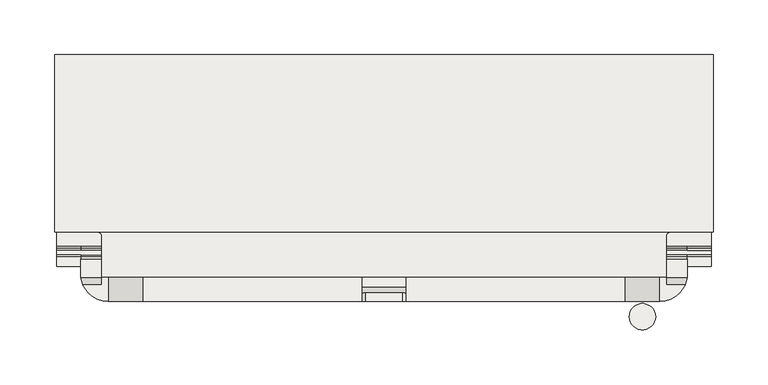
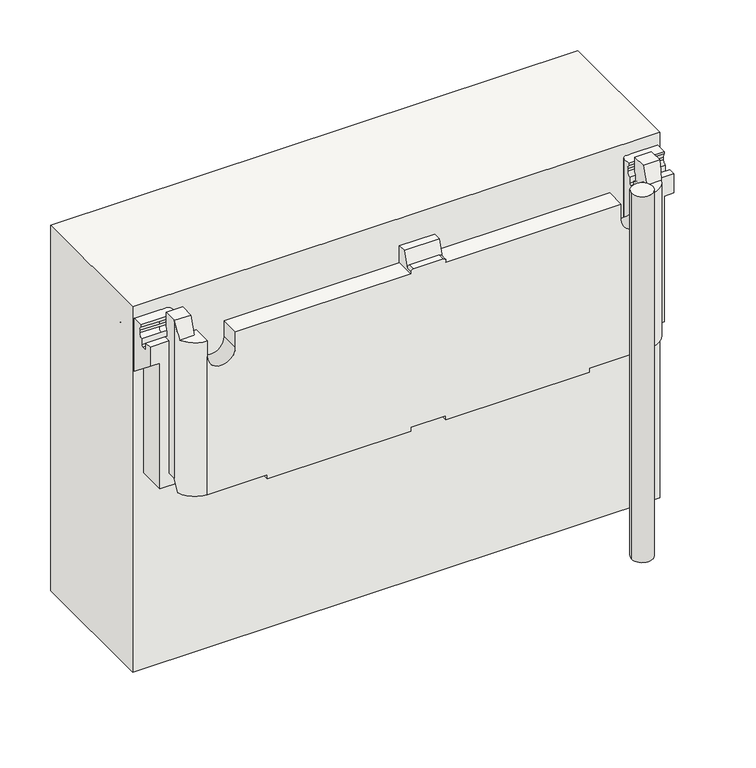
"""IFC4 building model written with IfcOpenShell, lengths in millimetres: covering geometry, panel VP Modulo prova ultima texture : panel VP Modulo prova ultima texture."""

from ifc_helpers import new_model, si_unit, point, frame, frame_2d, origin, origin_with_axes, place, context, project, spatial, polyline, circle_curve, ellipse_curve, trimmed, segment, composite_curve, outline, extrude, source, transform, mapped, element, save
from ifc_brep_helpers import plane_surface, cylinder_surface, revolved_surface, advanced_brep


def covering_ffdf41f5(model_context):
    return source(origin(), model_context, "Body", "SolidModel", [
        advanced_brep(
        [(-20.0, 40.503817, 440.3791993), (-20.0, 49.5015434, 440.3791993), (-20.0, 49.5015434, 420.3821425), (-20.0, 27.5015432, 420.3821425), (-20.0, 27.5015432, 422.3821424), (-20.0, 34.5021229, 422.3821424), (20.0, 49.5015434, 440.3791993), (20.0, 40.503817, 440.3791993), (20.0, 34.5021229, 422.3821424), (20.0, 27.5015432, 422.3821424), (20.0, 27.5015432, 420.3821425), (20.0, 49.5015434, 420.3821425), (-17.0, 35.5025688, 425.3821424), (17.0, 35.5025688, 425.3821424), (17.0, 27.5015432, 425.3821424), (-17.0, 27.5015432, 425.3821424), (-276.2404059, 49.5015434, 440.3770182), (-276.2404059, 65.772467, 440.3770182), (-276.2404059, 65.772467, 422.4339741), (-276.2404059, 63.7739273, 417.538463), (-276.2404059, 63.7739273, 414.538463), (-276.2404059, 67.7745502, 409.8422632), (-276.2404059, 59.5, 409.8422632), (-276.2404059, 59.5, 250.3778557), (-276.2404059, 49.5015434, 250.3778557), (276.2404059, 67.7745502, 409.8422632), (276.2404059, 63.7739273, 414.538463), (276.2404059, 63.7739273, 417.538463), (276.2404059, 65.772467, 422.4339741), (276.2404059, 65.772467, 440.3770182), (276.2404059, 49.5015434, 440.3770182), (276.2404059, 49.5015434, 250.3778557), (276.2404059, 59.5, 250.3778557), (276.2404059, 59.5, 409.8422632), (219.5404059, 27.5015432, 420.3821425), (219.5404059, 49.5015434, 420.3821425), (257.5404059, 42.6167555, 420.3821425), (257.5404059, 49.5015434, 420.3821425), (251.5404059, 49.5015434, 420.3821425), (251.5404059, 27.5015432, 420.3821425), (274.4146377, 42.6167555, 420.3821425), (-251.5404059, 27.5015432, 420.3821425), (-251.5404059, 49.5015434, 420.3821425), (-257.5404059, 49.5015434, 420.3821425), (-257.5404059, 42.6167555, 420.3821425), (-274.4146377, 42.6167555, 420.3821425), (-219.5404059, 49.5015434, 420.3821425), (-219.5404059, 27.5015432, 420.3821425), (-276.2404059, 109.8415131, 257.378532), (276.2404059, 109.8415131, 257.378532), (276.2404059, 141.2113001, 285.0190246), (-276.2404059, 141.2113001, 285.0190246), (-276.2404059, 147.3447094, 291.4812522), (276.2404059, 147.3447094, 291.4812522), (276.2404059, 184.4941844, 338.3639074), (-276.2404059, 184.4941844, 338.3639074), (276.2404059, 184.4941844, 365.3627622), (-276.2404059, 184.4941844, 365.3627622), (298.2404059, 184.4914281, 365.3627622), (298.2404059, 202.488872, 365.3627622), (-298.2404059, 202.488872, 365.3627622), (-298.2404059, 184.4914281, 365.3627622), (-298.2404059, 202.488872, 325.6494871), (298.2404059, 202.488872, 325.6494871), (276.2404059, 193.4423608, 284.2709563), (-276.2404059, 193.4423608, 284.2709563), (-298.2404059, 193.4423608, 284.2709563), (298.2404059, 193.4423608, 284.2709563), (276.2404059, 190.281945, 283.1432662), (-276.2404059, 190.281945, 283.1432662), (298.2404059, 190.281945, 283.1432662), (298.2404059, 59.5, 386.7739206), (287.2404059, 59.5, 386.7739206), (287.2404059, 180.2456216, 291.0959753), (276.2404059, 180.2456216, 291.0959753), (-276.2404059, 180.2456216, 291.0959753), (-287.2404059, 180.2456216, 291.0959753), (-287.2404059, 59.5, 386.7739206), (-298.2404059, 59.5, 386.7739206), (-298.2404059, 190.281945, 283.1432662), (276.2404059, 174.5899002, 290.4408933), (-276.2404059, 174.5899002, 290.4408933), (287.2404059, 174.5899002, 290.4408933), (287.2404059, 160.5878776, 272.7703691), (-287.2404059, 160.5878776, 272.7703691), (-287.2404059, 174.5899002, 290.4408933), (-287.2404059, 118.1414154, 235.3700156), (287.2404059, 118.1414154, 235.3700156), (251.5404059, 118.1414154, 235.3700156), (211.5404059, 118.1414154, 235.3700156), (20.0, 118.1414154, 235.3700156), (-20.0, 118.1414154, 235.3700156), (-211.5404059, 118.1414154, 235.3700156), (-251.5404059, 118.1414154, 235.3700156), (-287.2404059, 59.5, 235.3821441), (-251.5404059, 78.1414154, 235.3821441), (-211.5404059, 78.1414154, 235.3821441), (-20.0, 78.1414154, 235.3821441), (20.0, 78.1414154, 235.3821441), (211.5404059, 78.1414154, 235.3821441), (251.5404059, 78.1414154, 235.3821441), (287.2404059, 59.5, 235.3821441), (266.2404059, 59.5, 235.3821441), (266.2404059, 44.6291413, 235.3821441), (275.1714066, 44.6291413, 235.3821441), (251.5404059, 27.5015432, 235.3821441), (183.2404059, 27.5015432, 235.3821441), (183.2404059, 67.5015432, 235.3821441), (20.0, 67.5015432, 235.3821441), (20.0, 27.5015432, 235.3821441), (-20.0, 27.5015432, 235.3821441), (-20.0, 67.5015432, 235.3821441), (-183.2404059, 67.5015432, 235.3821441), (-183.2404059, 27.5015432, 235.3821441), (-251.5404059, 27.5015432, 235.3821441), (-275.1714066, 44.6291413, 235.3821441), (-266.2404059, 44.6291413, 235.3821441), (-266.2404059, 59.5, 235.3821441), (-219.5404059, 27.5015432, 401.3586119), (-251.5404059, 27.5015432, 401.3586119), (-183.2404059, 27.5015432, 230.3725587), (-20.0, 27.5015432, 230.3725587), (20.0, 27.5015432, 230.3725587), (183.2404059, 27.5015432, 230.3725587), (251.5404059, 27.5015432, 401.3586119), (219.5404059, 27.5015432, 401.3586119), (-251.5404059, 49.5015434, 401.3586119), (-219.5404059, 49.5015434, 401.3586119), (219.5404059, 49.5015434, 401.3586119), (251.5404059, 49.5015434, 401.3586119), (257.5404059, 49.5015434, 257.378532), (-257.5404059, 49.5015434, 257.378532), (-276.2404059, 101.3665857, 257.378532), (-265.6338042, 90.7599839, 257.378532), (-261.9338042, 90.7599839, 257.378532), (-257.5404059, 86.3665857, 257.378532), (257.5404059, 86.3665857, 257.378532), (261.9338042, 90.7599839, 257.378532), (265.6338042, 90.7599839, 257.378532), (276.2404059, 101.3665857, 257.378532), (-298.2404059, 59.5, 409.8422632), (-298.2404059, 67.7745502, 409.8422632), (-298.2404059, 67.7745502, 402.8424284), (-298.2404059, 69.7745502, 400.8424284), (-298.2404059, 74.0001297, 400.8424284), (-298.2404059, 76.0001297, 402.8424284), (-298.2404059, 76.0001297, 409.8422632), (-298.2404059, 80.0007527, 414.538463), (-298.2404059, 80.0007527, 417.538463), (-298.2404059, 78.002213, 422.4339741), (-298.2404059, 78.002213, 425.3856889), (-298.2404059, 115.166168, 425.3856889), (-298.2404059, 118.166168, 422.3856889), (-298.2404059, 118.166168, 406.1051366), (-298.2404059, 119.6447617, 403.5195374), (-276.2404059, 119.6447617, 403.5195374), (-276.2404059, 118.166168, 406.1051366), (-276.2404059, 118.166168, 422.3856889), (-276.2404059, 115.166168, 425.3856889), (-276.2404059, 101.3665857, 425.3856889), (-266.2404059, 59.5, 250.3778557), (-257.5404059, 67.7745502, 409.8422632), (-257.5404059, 67.7745502, 402.8424284), (-276.2404059, 67.7745502, 402.8424284), (-276.2404059, 69.7745502, 400.8424284), (-257.5404059, 69.7745502, 400.8424284), (-257.5404059, 74.0001297, 400.8424284), (-276.2404059, 74.0001297, 400.8424284), (-276.2404059, 76.0001297, 402.8424284), (-257.5404059, 76.0001297, 402.8424284), (-257.5404059, 76.0001297, 409.8422632), (-276.2404059, 76.0001297, 409.8422632), (-276.2404059, 80.0007527, 414.538463), (-257.5404059, 80.0007527, 414.538463), (-257.5404059, 80.0007527, 417.538463), (-276.2404059, 80.0007527, 417.538463), (-276.2404059, 78.002213, 422.4339741), (-257.5404059, 78.002213, 422.4339741), (-257.5404059, 78.002213, 425.3856889), (-257.5404059, 86.3665857, 425.3856889), (-261.9338042, 90.7599839, 425.3856889), (-265.6338042, 90.7599839, 425.3856889), (-257.5404059, 63.7739273, 414.538463), (-257.5404059, 63.7739273, 417.538463), (-257.5404059, 65.772467, 422.4339741), (-257.5404059, 65.772467, 440.3770182), (-257.5404059, 49.5015434, 440.3770182), (298.2404059, 119.6447617, 403.5195374), (298.2404059, 118.166168, 406.1051366), (298.2404059, 118.166168, 422.3856889), (298.2404059, 115.166168, 425.3856889), (298.2404059, 78.002213, 425.3856889), (298.2404059, 78.002213, 422.4339741), (298.2404059, 80.0007527, 417.538463), (298.2404059, 80.0007527, 414.538463), (298.2404059, 76.0001297, 409.8422632), (298.2404059, 76.0001297, 402.8424284), (298.2404059, 74.0001297, 400.8424284), (298.2404059, 69.7745502, 400.8424284), (298.2404059, 67.7745502, 402.8424284), (298.2404059, 67.7745502, 409.8422632), (298.2404059, 59.5, 409.8422632), (276.2404059, 115.166168, 425.3856889), (276.2404059, 118.166168, 422.3856889), (276.2404059, 118.166168, 406.1051366), (276.2404059, 119.6447617, 403.5195374), (276.2404059, 101.3665857, 425.3856889), (266.2404059, 59.5, 250.3778557), (276.2404059, 69.7745502, 400.8424284), (276.2404059, 67.7745502, 402.8424284), (276.2404059, 76.0001297, 402.8424284), (276.2404059, 74.0001297, 400.8424284), (276.2404059, 80.0007527, 414.538463), (276.2404059, 76.0001297, 409.8422632), (276.2404059, 78.002213, 422.4339741), (276.2404059, 80.0007527, 417.538463), (257.5404059, 49.5015434, 440.3770182), (257.5404059, 65.772467, 440.3770182), (257.5404059, 65.772467, 422.4339741), (257.5404059, 63.7739273, 417.538463), (257.5404059, 63.7739273, 414.538463), (257.5404059, 67.7745502, 409.8422632), (257.5404059, 67.7745502, 402.8424284), (257.5404059, 69.7745502, 400.8424284), (257.5404059, 74.0001297, 400.8424284), (257.5404059, 76.0001297, 402.8424284), (257.5404059, 76.0001297, 409.8422632), (257.5404059, 80.0007527, 414.538463), (257.5404059, 80.0007527, 417.538463), (257.5404059, 78.002213, 422.4339741), (257.5404059, 78.002213, 425.3856889), (257.5404059, 86.3665857, 425.3856889), (265.6338042, 90.7599839, 425.3856889), (261.9338042, 90.7599839, 425.3856889), (251.5404059, 78.1414154, 230.3725587), (211.5404059, 78.1414154, 230.3725587), (211.5404059, 118.1414154, 230.3725587), (251.5404059, 118.1414154, 230.3725587), (-20.0, 78.1414154, 230.3725587), (-20.0, 118.1414154, 230.3725587), (20.0, 118.1414154, 230.3725587), (20.0, 78.1414154, 230.3725587), (-251.5404059, 78.1414154, 230.3725587), (-251.5404059, 118.1414154, 230.3725587), (-211.5404059, 118.1414154, 230.3725587), (-211.5404059, 78.1414154, 230.3725587), (20.0, 67.5015432, 230.3725587), (183.2404059, 67.5015432, 230.3725587), (-20.0, 67.5015432, 230.3725587), (-183.2404059, 67.5015432, 230.3725587), (-266.2404059, 49.5015434, 250.3778557), (266.2404059, 49.5015434, 250.3778557)],
        [
            (0, 1),
            (1, 2),
            (2, 3),
            (3, 4),
            (4, 5),
            (5, 0),
            (6, 7),
            (7, 8),
            (8, 9),
            (9, 10),
            (10, 11),
            (11, 6),
            (0, 7),
            (6, 1),
            (5, 12, ellipse_curve(frame((-17.0, 34.5021229, 422.3821424), z_axis=(0.0, 0.9486409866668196, -0.31635467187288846), x_axis=(0.0, 0.31635467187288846, 0.9486409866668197)), 3.1624187, 3.0)),
            (12, 13),
            (13, 8, ellipse_curve(frame((17.0, 34.5021229, 422.3821424), z_axis=(0.0, 0.9486409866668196, -0.31635467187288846), x_axis=(0.0, 0.31635467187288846, 0.9486409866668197)), 3.1624187, 3.0)),
            (14, 9, circle_curve(frame((17.0, 27.5015432, 422.3821424), z_axis=(0.0, 1.0, 0.0), x_axis=(-1.0, 0.0, 0.0)), 3.0)),
            (13, 14),
            (4, 15, circle_curve(frame((-17.0, 27.5015432, 422.3821424), z_axis=(0.0, 1.0, 0.0), x_axis=(-1.0, 0.0, 0.0)), 3.0)),
            (15, 12),
            (15, 14),
            (16, 17),
            (17, 18),
            (18, 19, circle_curve(frame((-276.2404059, 70.7690822, 417.538463), z_axis=(1.0, 0.0, 0.0), x_axis=(0.0, -1.0, 0.0)), 6.9951549)),
            (19, 20),
            (20, 21, circle_curve(frame((-276.2404059, 68.5305961, 414.538463), z_axis=(1.0, 0.0, 0.0), x_axis=(0.0, -1.0, 0.0)), 4.7566689)),
            (21, 22),
            (22, 23),
            (23, 24),
            (24, 16),
            (25, 26, circle_curve(frame((276.2404059, 68.5305961, 414.538463), z_axis=(-1.0, 0.0, 0.0), x_axis=(0.0, -1.0, 0.0)), 4.7566689)),
            (26, 27),
            (27, 28, circle_curve(frame((276.2404059, 70.7690822, 417.538463), z_axis=(-1.0, 0.0, 0.0), x_axis=(0.0, -1.0, 0.0)), 6.9951549)),
            (28, 29),
            (29, 30),
            (30, 31),
            (31, 32),
            (32, 33),
            (33, 25),
            (10, 34),
            (34, 35),
            (35, 11),
            (36, 37),
            (37, 38),
            (38, 39),
            (39, 40, circle_curve(frame((251.5404059, 52.367225, 420.3821425), z_axis=(0.0, 0.0, 1.0), x_axis=(1.0, 0.0, 0.0)), 24.8656818)),
            (40, 36),
            (41, 42),
            (42, 43),
            (43, 44),
            (44, 45),
            (45, 41, circle_curve(frame((-251.5404059, 52.367225, 420.3821425), z_axis=(0.0, 0.0, 1.0), x_axis=(-1.0, 0.0, 0.0)), 24.8656818)),
            (46, 47),
            (47, 3),
            (2, 46),
            (48, 49),
            (49, 50),
            (50, 51),
            (51, 48),
            (52, 53),
            (53, 54),
            (54, 55),
            (55, 52),
            (54, 56),
            (56, 57),
            (57, 55),
            (56, 58),
            (58, 59),
            (59, 60),
            (60, 61),
            (61, 57),
            (62, 60),
            (59, 63),
            (63, 62),
            (64, 65),
            (65, 66),
            (66, 62),
            (63, 67),
            (67, 64),
            (64, 68, circle_curve(frame((276.2404059, 191.5102381, 284.6933727), z_axis=(-1.0, 0.0, 0.0), x_axis=(0.0, -1.0, 0.0)), 1.9777598)),
            (68, 69),
            (69, 65, circle_curve(frame((-276.2404059, 191.5102381, 284.6933727), z_axis=(1.0, 0.0, 0.0), x_axis=(0.0, -1.0, 0.0)), 1.9777598)),
            (68, 70),
            (70, 71),
            (71, 72),
            (72, 73),
            (73, 74),
            (74, 75),
            (75, 76),
            (76, 77),
            (77, 78),
            (78, 79),
            (79, 69),
            (74, 80, circle_curve(frame((276.2404059, 177.7453022, 287.9405708), z_axis=(1.0, 0.0, 0.0), x_axis=(0.0, -1.0, 0.0)), 4.0259377)),
            (80, 81),
            (81, 75, circle_curve(frame((-276.2404059, 177.7453022, 287.9405708), z_axis=(-1.0, 0.0, 0.0), x_axis=(0.0, -1.0, 0.0)), 4.0259377)),
            (80, 82),
            (82, 83),
            (83, 84),
            (84, 85),
            (85, 81),
            (86, 84),
            (83, 87),
            (87, 88),
            (88, 89),
            (89, 90),
            (90, 91),
            (91, 92),
            (92, 93),
            (93, 86),
            (50, 53, circle_curve(frame((276.2404059, 108.1562691, 322.5338873), z_axis=(1.0, 0.0, 0.0), x_axis=(0.0, -1.0, 0.0)), 50.0)),
            (52, 51, circle_curve(frame((-276.2404059, 108.1562691, 322.5338873), z_axis=(-1.0, 0.0, 0.0), x_axis=(0.0, -1.0, 0.0)), 50.0)),
            (94, 86),
            (93, 95),
            (95, 96),
            (96, 92),
            (91, 97),
            (97, 98),
            (98, 90),
            (89, 99),
            (99, 100),
            (100, 88),
            (87, 101),
            (101, 102),
            (102, 103),
            (103, 104),
            (104, 105, circle_curve(frame((251.5404059, 52.367225, 235.3821441), z_axis=(0.0, 0.0, -1.0), x_axis=(1.0, 0.0, 0.0)), 24.8656818)),
            (105, 106),
            (106, 107),
            (107, 108),
            (108, 109),
            (109, 110),
            (110, 111),
            (111, 112),
            (112, 113),
            (113, 114),
            (114, 115, circle_curve(frame((-251.5404059, 52.367225, 235.3821441), z_axis=(0.0, 0.0, -1.0), x_axis=(-1.0, 0.0, 0.0)), 24.8656818)),
            (115, 116),
            (116, 117),
            (117, 94),
            (47, 118),
            (118, 119, circle_curve(frame((-235.5404059, 27.5015432, 401.3586119), z_axis=(0.0, 1.0, 0.0), x_axis=(-1.0, 0.0, 0.0)), 16.0)),
            (119, 114),
            (113, 120),
            (120, 121),
            (121, 110),
            (109, 122),
            (122, 123),
            (123, 106),
            (105, 124),
            (124, 125, circle_curve(frame((235.5404059, 27.5015432, 401.3586119), z_axis=(0.0, 1.0, 0.0), x_axis=(1.0, 0.0, 0.0)), 16.0)),
            (125, 34),
            (42, 126),
            (126, 127, circle_curve(frame((-235.5404059, 49.5015434, 401.3586119), z_axis=(0.0, -1.0, 0.0), x_axis=(-1.0, 0.0, 0.0)), 16.0)),
            (127, 46),
            (35, 128),
            (128, 129, circle_curve(frame((235.5404059, 49.5015434, 401.3586119), z_axis=(0.0, -1.0, 0.0), x_axis=(1.0, 0.0, 0.0)), 16.0)),
            (129, 38),
            (37, 130),
            (130, 131),
            (131, 43),
            (48, 132),
            (132, 133, circle_curve(frame((-265.6338042, 101.3665857, 257.378532), z_axis=(0.0, 0.0, 1.0), x_axis=(-1.0, 0.0, 0.0)), 10.6066017)),
            (133, 134),
            (134, 135, circle_curve(frame((-261.9338042, 86.3665857, 257.378532), z_axis=(0.0, 0.0, -1.0), x_axis=(-1.0, 0.0, 0.0)), 4.3933983)),
            (135, 131),
            (130, 136),
            (136, 137, circle_curve(frame((261.9338042, 86.3665857, 257.378532), z_axis=(0.0, 0.0, -1.0), x_axis=(1.0, 0.0, 0.0)), 4.3933983)),
            (137, 138),
            (138, 139, circle_curve(frame((265.6338042, 101.3665857, 257.378532), z_axis=(0.0, 0.0, 1.0), x_axis=(1.0, 0.0, 0.0)), 10.6066017)),
            (139, 49),
            (66, 79, circle_curve(frame((-298.2404059, 191.5102381, 284.6933727), z_axis=(-1.0, 0.0, 0.0), x_axis=(0.0, -1.0, 0.0)), 1.9777598)),
            (78, 140),
            (140, 141),
            (141, 142),
            (142, 143, circle_curve(frame((-298.2404059, 69.7745502, 402.8424284), z_axis=(1.0, 0.0, 0.0), x_axis=(0.0, -1.0, 0.0)), 2.0)),
            (143, 144),
            (144, 145, circle_curve(frame((-298.2404059, 74.0001297, 402.8424284), z_axis=(1.0, 0.0, 0.0), x_axis=(0.0, -1.0, 0.0)), 2.0)),
            (145, 146),
            (146, 147, circle_curve(frame((-298.2404059, 75.2440838, 414.538463), z_axis=(1.0, 0.0, 0.0), x_axis=(0.0, -1.0, 0.0)), 4.7566689)),
            (147, 148),
            (148, 149, circle_curve(frame((-298.2404059, 73.0055977, 417.538463), z_axis=(1.0, 0.0, 0.0), x_axis=(0.0, -1.0, 0.0)), 6.9951549)),
            (149, 150),
            (150, 151),
            (151, 152, circle_curve(frame((-298.2404059, 115.166168, 422.3856889), z_axis=(-1.0, 0.0, 0.0), x_axis=(0.0, -1.0, 0.0)), 3.0)),
            (152, 153),
            (153, 154, circle_curve(frame((-298.2404059, 121.166168, 406.1051366), z_axis=(1.0, 0.0, 0.0), x_axis=(0.0, -1.0, 0.0)), 3.0)),
            (154, 61),
            (57, 155),
            (155, 156, circle_curve(frame((-276.2404059, 121.166168, 406.1051366), z_axis=(-1.0, 0.0, 0.0), x_axis=(0.0, -1.0, 0.0)), 3.0)),
            (156, 157),
            (157, 158, circle_curve(frame((-276.2404059, 115.166168, 422.3856889), z_axis=(1.0, 0.0, 0.0), x_axis=(0.0, -1.0, 0.0)), 3.0)),
            (158, 159),
            (159, 132),
            (77, 94),
            (117, 160),
            (160, 23),
            (22, 140),
            (141, 21),
            (21, 161),
            (161, 162),
            (162, 163),
            (163, 142),
            (163, 164, circle_curve(frame((-276.2404059, 69.7745502, 402.8424284), z_axis=(1.0, 0.0, 0.0), x_axis=(0.0, -1.0, 0.0)), 2.0)),
            (164, 143),
            (164, 165),
            (165, 166),
            (166, 167),
            (167, 144),
            (167, 168, circle_curve(frame((-276.2404059, 74.0001297, 402.8424284), z_axis=(1.0, 0.0, 0.0), x_axis=(0.0, -1.0, 0.0)), 2.0)),
            (168, 145),
            (168, 169),
            (169, 170),
            (170, 171),
            (171, 146),
            (171, 172, circle_curve(frame((-276.2404059, 75.2440838, 414.538463), z_axis=(1.0, 0.0, 0.0), x_axis=(0.0, -1.0, 0.0)), 4.7566689)),
            (172, 147),
            (172, 173),
            (173, 174),
            (174, 175),
            (175, 148),
            (175, 176, circle_curve(frame((-276.2404059, 73.0055977, 417.538463), z_axis=(1.0, 0.0, 0.0), x_axis=(0.0, -1.0, 0.0)), 6.9951549)),
            (176, 149),
            (176, 177),
            (177, 178),
            (178, 150),
            (178, 179),
            (179, 180, circle_curve(frame((-261.9338042, 86.3665857, 425.3856889), z_axis=(0.0, 0.0, 1.0), x_axis=(-1.0, 0.0, 0.0)), 4.3933983)),
            (180, 181),
            (181, 159, circle_curve(frame((-265.6338042, 101.3665857, 425.3856889), z_axis=(0.0, 0.0, -1.0), x_axis=(-1.0, 0.0, 0.0)), 10.6066017)),
            (158, 151),
            (157, 152),
            (156, 153),
            (155, 154),
            (76, 85, circle_curve(frame((-287.2404059, 177.7453022, 287.9405708), z_axis=(1.0, 0.0, 0.0), x_axis=(0.0, -1.0, 0.0)), 4.0259377)),
            (45, 16, ellipse_curve(frame((-251.5404059, 52.367225, 448.6995619), z_axis=(0.0, 0.9455185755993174, -0.32556815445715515), x_axis=(0.0, -0.3255681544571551, -0.9455185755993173)), 76.3762716, 24.8656818)),
            (24, 115, ellipse_curve(frame((-251.5404059, 52.367225, 259.1975168), z_axis=(0.0, -0.9510565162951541, 0.3090169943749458), x_axis=(0.0, -0.30901699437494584, -0.9510565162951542)), 80.4670366, 24.8656818)),
            (119, 41),
            (177, 174, circle_curve(frame((-257.5404059, 73.0055977, 417.538463), z_axis=(-1.0, 0.0, 0.0), x_axis=(0.0, -1.0, 0.0)), 6.9951549)),
            (173, 170, circle_curve(frame((-257.5404059, 75.2440838, 414.538463), z_axis=(-1.0, 0.0, 0.0), x_axis=(0.0, -1.0, 0.0)), 4.7566689)),
            (169, 166, circle_curve(frame((-257.5404059, 74.0001297, 402.8424284), z_axis=(-1.0, 0.0, 0.0), x_axis=(0.0, -1.0, 0.0)), 2.0)),
            (165, 162, circle_curve(frame((-257.5404059, 69.7745502, 402.8424284), z_axis=(-1.0, 0.0, 0.0), x_axis=(0.0, -1.0, 0.0)), 2.0)),
            (161, 182, circle_curve(frame((-257.5404059, 68.5305961, 414.538463), z_axis=(-1.0, 0.0, 0.0), x_axis=(0.0, -1.0, 0.0)), 4.7566689)),
            (182, 183),
            (183, 184, circle_curve(frame((-257.5404059, 70.7690822, 417.538463), z_axis=(-1.0, 0.0, 0.0), x_axis=(0.0, -1.0, 0.0)), 6.9951549)),
            (184, 185),
            (185, 186),
            (186, 44),
            (135, 179),
            (16, 186),
            (185, 17),
            (184, 18),
            (183, 19),
            (182, 20),
            (134, 180),
            (133, 181),
            (39, 124),
            (104, 31, ellipse_curve(frame((251.5404059, 52.367225, 259.1975168), z_axis=(0.0, -0.9510565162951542, 0.3090169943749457), x_axis=(0.0, -0.3090169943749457, -0.9510565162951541)), 80.4670366, 24.8656818)),
            (30, 40, ellipse_curve(frame((251.5404059, 52.367225, 448.6995619), z_axis=(0.0, 0.9455185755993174, -0.3255681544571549), x_axis=(0.0, -0.3255681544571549, -0.9455185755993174)), 76.3762716, 24.8656818)),
            (58, 187),
            (187, 188, circle_curve(frame((298.2404059, 121.166168, 406.1051366), z_axis=(-1.0, 0.0, 0.0), x_axis=(0.0, -1.0, 0.0)), 3.0)),
            (188, 189),
            (189, 190, circle_curve(frame((298.2404059, 115.166168, 422.3856889), z_axis=(1.0, 0.0, 0.0), x_axis=(0.0, -1.0, 0.0)), 3.0)),
            (190, 191),
            (191, 192),
            (192, 193, circle_curve(frame((298.2404059, 73.0055977, 417.538463), z_axis=(-1.0, 0.0, 0.0), x_axis=(0.0, -1.0, 0.0)), 6.9951549)),
            (193, 194),
            (194, 195, circle_curve(frame((298.2404059, 75.2440838, 414.538463), z_axis=(-1.0, 0.0, 0.0), x_axis=(0.0, -1.0, 0.0)), 4.7566689)),
            (195, 196),
            (196, 197, circle_curve(frame((298.2404059, 74.0001297, 402.8424284), z_axis=(-1.0, 0.0, 0.0), x_axis=(0.0, -1.0, 0.0)), 2.0)),
            (197, 198),
            (198, 199, circle_curve(frame((298.2404059, 69.7745502, 402.8424284), z_axis=(-1.0, 0.0, 0.0), x_axis=(0.0, -1.0, 0.0)), 2.0)),
            (199, 200),
            (200, 201),
            (201, 71),
            (70, 67, circle_curve(frame((298.2404059, 191.5102381, 284.6933727), z_axis=(1.0, 0.0, 0.0), x_axis=(0.0, -1.0, 0.0)), 1.9777598)),
            (202, 203, circle_curve(frame((276.2404059, 115.166168, 422.3856889), z_axis=(-1.0, 0.0, 0.0), x_axis=(0.0, -1.0, 0.0)), 3.0)),
            (203, 204),
            (204, 205, circle_curve(frame((276.2404059, 121.166168, 406.1051366), z_axis=(1.0, 0.0, 0.0), x_axis=(0.0, -1.0, 0.0)), 3.0)),
            (205, 56),
            (139, 206),
            (206, 202),
            (201, 33),
            (32, 207),
            (207, 102),
            (101, 72),
            (198, 208),
            (208, 209, circle_curve(frame((276.2404059, 69.7745502, 402.8424284), z_axis=(-1.0, 0.0, 0.0), x_axis=(0.0, -1.0, 0.0)), 2.0)),
            (209, 199),
            (196, 210),
            (210, 211, circle_curve(frame((276.2404059, 74.0001297, 402.8424284), z_axis=(-1.0, 0.0, 0.0), x_axis=(0.0, -1.0, 0.0)), 2.0)),
            (211, 197),
            (194, 212),
            (212, 213, circle_curve(frame((276.2404059, 75.2440838, 414.538463), z_axis=(-1.0, 0.0, 0.0), x_axis=(0.0, -1.0, 0.0)), 4.7566689)),
            (213, 195),
            (192, 214),
            (214, 215, circle_curve(frame((276.2404059, 73.0055977, 417.538463), z_axis=(-1.0, 0.0, 0.0), x_axis=(0.0, -1.0, 0.0)), 6.9951549)),
            (215, 193),
            (189, 203),
            (202, 190),
            (188, 204),
            (187, 205),
            (200, 25),
            (36, 216),
            (216, 217),
            (217, 218),
            (218, 219, circle_curve(frame((257.5404059, 70.7690822, 417.538463), z_axis=(1.0, 0.0, 0.0), x_axis=(0.0, -1.0, 0.0)), 6.9951549)),
            (219, 220),
            (220, 221, circle_curve(frame((257.5404059, 68.5305961, 414.538463), z_axis=(1.0, 0.0, 0.0), x_axis=(0.0, -1.0, 0.0)), 4.7566689)),
            (221, 222),
            (222, 223, circle_curve(frame((257.5404059, 69.7745502, 402.8424284), z_axis=(1.0, 0.0, 0.0), x_axis=(0.0, -1.0, 0.0)), 2.0)),
            (223, 224),
            (224, 225, circle_curve(frame((257.5404059, 74.0001297, 402.8424284), z_axis=(1.0, 0.0, 0.0), x_axis=(0.0, -1.0, 0.0)), 2.0)),
            (225, 226),
            (226, 227, circle_curve(frame((257.5404059, 75.2440838, 414.538463), z_axis=(1.0, 0.0, 0.0), x_axis=(0.0, -1.0, 0.0)), 4.7566689)),
            (227, 228),
            (228, 229, circle_curve(frame((257.5404059, 73.0055977, 417.538463), z_axis=(1.0, 0.0, 0.0), x_axis=(0.0, -1.0, 0.0)), 6.9951549)),
            (229, 230),
            (230, 231),
            (231, 136),
            (221, 25),
            (209, 222),
            (208, 223),
            (29, 217),
            (216, 30),
            (28, 218),
            (27, 219),
            (26, 220),
            (211, 224),
            (210, 225),
            (213, 226),
            (212, 227),
            (215, 228),
            (214, 229),
            (191, 230),
            (206, 232, circle_curve(frame((265.6338042, 101.3665857, 425.3856889), z_axis=(0.0, 0.0, -1.0), x_axis=(1.0, 0.0, 0.0)), 10.6066017)),
            (232, 233),
            (233, 231, circle_curve(frame((261.9338042, 86.3665857, 425.3856889), z_axis=(0.0, 0.0, 1.0), x_axis=(1.0, 0.0, 0.0)), 4.3933983)),
            (233, 137),
            (232, 138),
            (119, 126),
            (127, 118),
            (129, 124),
            (125, 128),
            (82, 73, circle_curve(frame((287.2404059, 177.7453022, 287.9405708), z_axis=(-1.0, 0.0, 0.0), x_axis=(0.0, -1.0, 0.0)), 4.0259377)),
            (234, 235),
            (235, 236),
            (236, 237),
            (237, 234),
            (234, 100),
            (99, 235),
            (89, 236),
            (88, 237),
            (238, 239),
            (239, 240),
            (240, 241),
            (241, 238),
            (241, 98),
            (97, 238),
            (240, 90),
            (239, 91),
            (242, 243),
            (243, 244),
            (244, 245),
            (245, 242),
            (245, 96),
            (95, 242),
            (244, 92),
            (243, 93),
            (246, 247),
            (247, 123),
            (122, 246),
            (248, 121),
            (120, 249),
            (249, 248),
            (108, 246),
            (247, 107),
            (249, 112),
            (111, 248),
            (250, 160),
            (116, 250),
            (250, 24),
            (251, 103),
            (207, 251),
            (31, 251),
        ],
        [
            plane_surface(frame((-20.0, 49.5042184, 440.3791993), z_axis=(-1.0, 0.0, 0.0), x_axis=(0.0, 1.0, 0.0))),
            plane_surface(frame((20.0, 49.5042184, 440.3791993), z_axis=(1.0, 0.0, 0.0), x_axis=(0.0, -1.0, 0.0))),
            plane_surface(frame((-20.0, 40.503817, 440.3791993), z_axis=(0.0, 0.0, 1.0), x_axis=(1.0, 0.0, 0.0))),
            plane_surface(frame((-20.0, 33.835159, 420.3821425), z_axis=(0.0, -0.9486409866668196, 0.31635467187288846), x_axis=(1.0, 0.0, 0.0))),
            cylinder_surface(frame((17.0, 27.5015432, 422.3821424), z_axis=(0.0, 1.0, 0.0), x_axis=(-1.0, 0.0, 0.0)), 3.0),
            cylinder_surface(frame((-17.0, 27.5015432, 422.3821424), z_axis=(0.0, 1.0, 0.0), x_axis=(-1.0, 0.0, 0.0)), 3.0),
            plane_surface(frame((-17.0, 49.501543, 425.3821424), z_axis=(0.0, 0.0, 1.0), x_axis=(0.0, -1.0, 0.0))),
            plane_surface(frame((-276.2404059, 118.1414154, 235.3700156), z_axis=(-1.0, 0.0, 0.0), x_axis=(0.0, -0.7502972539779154, -0.6611006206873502))),
            plane_surface(frame((276.2404059, 118.1414154, 235.3700156), z_axis=(1.0, 0.0, 0.0), x_axis=(0.0, 0.7502972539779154, 0.6611006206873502))),
            plane_surface(frame((-276.2404059, 27.5015432, 420.3821425), z_axis=(0.0, 0.0, 1.0), x_axis=(1.0, 0.0, 0.0))),
            plane_surface(frame((-276.2404059, 109.8415131, 257.378532), z_axis=(0.0, -0.6611006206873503, 0.7502972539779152), x_axis=(1.0, 0.0, 0.0))),
            plane_surface(frame((-276.2404059, 147.3447094, 291.4812522), z_axis=(0.0, -0.7837688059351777, 0.6210527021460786), x_axis=(1.0, 0.0, 0.0))),
            plane_surface(frame((-276.2404059, 184.4941844, 338.3639074), z_axis=(0.0, -1.0, 0.0), x_axis=(1.0, 0.0, 0.0))),
            plane_surface(frame((-276.2404059, 184.4941844, 365.3627622), z_axis=(0.0, 0.0, 1.0), x_axis=(1.0, 0.0, 0.0))),
            plane_surface(frame((-276.2404059, 202.488872, 365.3627622), z_axis=(0.0, 1.0, 0.0), x_axis=(1.0, 0.0, 0.0))),
            plane_surface(frame((-276.2404059, 202.488872, 325.6494871), z_axis=(0.0, 0.9769248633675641, -0.21358326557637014), x_axis=(1.0, 0.0, 0.0))),
            cylinder_surface(frame((276.2404059, 191.5102381, 284.6933727), z_axis=(-1.0, 0.0, 0.0), x_axis=(0.0, -1.0, 0.0)), 1.9777598),
            plane_surface(frame((-276.2404059, 190.281945, 283.1432662), z_axis=(0.0, -0.6210526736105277, -0.7837688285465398), x_axis=(1.0, 0.0, 0.0))),
            revolved_surface(polyline([(276.2404059, 173.71936449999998, 287.9405708), (-276.2404059, 173.71936449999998, 287.9405708)]), (276.2404059, 177.7453022, 287.9405708), (1.0, 0.0, 0.0)),
            plane_surface(frame((-276.2404059, 174.5899002, 290.4408933), z_axis=(0.0, 0.7837682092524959, -0.6210534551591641), x_axis=(1.0, 0.0, 0.0))),
            plane_surface(frame((-276.2404059, 160.5878776, 272.7703691), z_axis=(0.0, 0.6611006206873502, -0.7502972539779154), x_axis=(1.0, 0.0, 0.0))),
            revolved_surface(polyline([(276.2404059, 58.1562691, 322.5338873), (-276.2404059, 58.1562691, 322.5338873)]), (276.2404059, 108.1562691, 322.5338873), (1.0, 0.0, 0.0)),
            plane_surface(frame((-276.2404059, 118.1551803, 235.3821441), z_axis=(0.0, 0.0, -1.0), x_axis=(1.0, 0.0, 0.0))),
            plane_surface(frame((-276.2404059, 27.5015432, 235.3821441), z_axis=(0.0, -1.0, 0.0), x_axis=(1.0, 0.0, 0.0))),
            plane_surface(frame((-276.2404059, 49.5015434, 420.3821425), z_axis=(0.0, 1.0, 0.0), x_axis=(1.0, 0.0, 0.0))),
            plane_surface(frame((-276.2404059, 49.5015434, 257.378532), z_axis=(0.0, 0.0, 1.0), x_axis=(1.0, 0.0, 0.0))),
            plane_surface(frame((-298.2404059, 202.488872, 325.6494871), z_axis=(-1.0000000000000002, 0.0, 0.0), x_axis=(0.0, -0.21358326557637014, -0.9769248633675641))),
            plane_surface(frame((-276.2404059, 202.488872, 325.6494871), z_axis=(1.0000000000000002, 0.0, 0.0), x_axis=(0.0, 0.21358326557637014, 0.9769248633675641))),
            cylinder_surface(frame((-276.2404059, 191.5102381, 284.6933727), z_axis=(-1.0, 0.0, 0.0), x_axis=(0.0, -1.0, 0.0)), 1.9777598),
            plane_surface(frame((-298.2404059, 59.5, 386.7739206), z_axis=(0.0, -1.0, 0.0), x_axis=(1.0, 0.0, 0.0))),
            plane_surface(frame((-298.2404059, 67.7745502, 409.8422632), z_axis=(0.0, 1.0, 0.0), x_axis=(1.0, 0.0, 0.0))),
            revolved_surface(polyline([(-276.2404059, 67.7745502, 402.8424284), (-298.2404059, 67.7745502, 402.8424284)]), (-276.2404059, 69.7745502, 402.8424284), (1.0, 0.0, 0.0)),
            plane_surface(frame((-298.2404059, 69.7745502, 400.8424284), z_axis=(0.0, 0.0, 1.0), x_axis=(1.0, 0.0, 0.0))),
            revolved_surface(polyline([(-276.2404059, 72.0001297, 402.8424284), (-298.2404059, 72.0001297, 402.8424284)]), (-276.2404059, 74.0001297, 402.8424284), (1.0, 0.0, 0.0)),
            plane_surface(frame((-298.2404059, 76.0001297, 402.8424284), z_axis=(0.0, -1.0, 0.0), x_axis=(1.0, 0.0, 0.0))),
            revolved_surface(polyline([(-276.2404059, 70.4874149, 414.538463), (-298.2404059, 70.4874149, 414.538463)]), (-276.2404059, 75.2440838, 414.538463), (1.0, 0.0, 0.0)),
            plane_surface(frame((-298.2404059, 80.0007527, 414.538463), z_axis=(0.0, -1.0, 0.0), x_axis=(1.0, 0.0, 0.0))),
            revolved_surface(polyline([(-276.2404059, 66.01044279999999, 417.538463), (-298.2404059, 66.01044279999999, 417.538463)]), (-276.2404059, 73.0055977, 417.538463), (1.0, 0.0, 0.0)),
            plane_surface(frame((-298.2404059, 78.002213, 422.4339741), z_axis=(0.0, -1.0, 0.0), x_axis=(1.0, 0.0, 0.0))),
            plane_surface(frame((-298.2404059, 78.002213, 425.3856889), z_axis=(0.0, 0.0, 1.0), x_axis=(1.0, 0.0, 0.0))),
            cylinder_surface(frame((-276.2404059, 115.166168, 422.3856889), z_axis=(-1.0, 0.0, 0.0), x_axis=(0.0, -1.0, 0.0)), 3.0),
            plane_surface(frame((-298.2404059, 118.166168, 422.3856889), z_axis=(0.0, 1.0, 0.0), x_axis=(1.0, 0.0, 0.0))),
            revolved_surface(polyline([(-276.2404059, 118.166168, 406.1051366), (-298.2404059, 118.166168, 406.1051366)]), (-276.2404059, 121.166168, 406.1051366), (1.0, 0.0, 0.0)),
            plane_surface(frame((-298.2404059, 119.6447617, 403.5195374), z_axis=(0.0, 0.5071354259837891, 0.8618663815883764), x_axis=(1.0, 0.0, 0.0))),
            plane_surface(frame((-298.2404059, 59.5, 409.8422632), z_axis=(0.0, 0.0, 1.0), x_axis=(1.0, 0.0, 0.0))),
            plane_surface(frame((-287.2404059, 174.5899002, 290.4408933), z_axis=(-1.0, 0.0, 0.0), x_axis=(0.0, -0.6210534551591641, -0.7837682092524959))),
            revolved_surface(polyline([(-276.2404059, 173.71936449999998, 287.9405708), (-287.2404059, 173.71936449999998, 287.9405708)]), (-276.2404059, 177.7453022, 287.9405708), (1.0, 0.0, 0.0)),
            cylinder_surface(frame((-251.5404059, 52.367225, 230.3725587), z_axis=(0.0, 0.0, -1.0), x_axis=(-1.0, 0.0, 0.0)), 24.8656818),
            plane_surface(frame((-257.5404059, 33.2976457, 420.3821425), z_axis=(1.0, 0.0, 0.0), x_axis=(0.0, 1.0, 0.0))),
            revolved_surface(polyline([(-257.5404059, 67.7745502, 402.8424284), (-276.2404059, 67.7745502, 402.8424284)]), (-257.5404059, 69.7745502, 402.8424284), (1.0, 0.0, 0.0)),
            plane_surface(frame((-276.2404059, 49.5015434, 440.3770182), z_axis=(0.0, 0.0, 1.0), x_axis=(1.0, 0.0, 0.0))),
            plane_surface(frame((-276.2404059, 65.772467, 440.3770182), z_axis=(0.0, 1.0, 0.0), x_axis=(1.0, 0.0, 0.0))),
            revolved_surface(polyline([(-257.5404059, 63.7739273, 417.538463), (-276.2404059, 63.7739273, 417.538463)]), (-257.5404059, 70.7690822, 417.538463), (1.0, 0.0, 0.0)),
            plane_surface(frame((-276.2404059, 63.7739273, 417.538463), z_axis=(0.0, 1.0, 0.0), x_axis=(1.0, 0.0, 0.0))),
            revolved_surface(polyline([(-257.5404059, 63.773927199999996, 414.538463), (-276.2404059, 63.773927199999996, 414.538463)]), (-257.5404059, 68.5305961, 414.538463), (1.0, 0.0, 0.0)),
            revolved_surface(polyline([(-257.5404059, 72.0001297, 402.8424284), (-276.2404059, 72.0001297, 402.8424284)]), (-257.5404059, 74.0001297, 402.8424284), (1.0, 0.0, 0.0)),
            revolved_surface(polyline([(-257.5404059, 70.4874149, 414.538463), (-276.2404059, 70.4874149, 414.538463)]), (-257.5404059, 75.2440838, 414.538463), (1.0, 0.0, 0.0)),
            revolved_surface(polyline([(-257.5404059, 66.01044279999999, 417.538463), (-276.2404059, 66.01044279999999, 417.538463)]), (-257.5404059, 73.0055977, 417.538463), (1.0, 0.0, 0.0)),
            plane_surface(frame((-276.2404059, 42.6167555, 420.3821425), z_axis=(0.0, -0.9455185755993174, 0.32556815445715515), x_axis=(1.0, 0.0, 0.0))),
            cylinder_surface(frame((-261.9338042, 86.3665857, 257.378532), z_axis=(0.0, 0.0, 1.0), x_axis=(-1.0, 0.0, 0.0)), 4.3933983),
            plane_surface(frame((-261.9338042, 90.7599839, 425.3856889), z_axis=(0.0, 1.0, 0.0), x_axis=(0.0, 0.0, -1.0))),
            revolved_surface(polyline([(-276.2404059, 101.3665857, 257.378532), (-276.2404059, 101.3665857, 425.3856889)]), (-265.6338042, 101.3665857, 257.378532), (0.0, 0.0, -1.0)),
            cylinder_surface(frame((251.5404059, 52.367225, 230.3725587), z_axis=(0.0, 0.0, -1.0), x_axis=(1.0, 0.0, 0.0)), 24.8656818),
            plane_surface(frame((298.2404059, 202.488872, 365.3627622), z_axis=(1.0, 0.0, 0.0), x_axis=(0.0, 0.0, 1.0))),
            plane_surface(frame((276.2404059, 202.488872, 365.3627622), z_axis=(-1.0, 0.0, 0.0), x_axis=(0.0, 0.0, -1.0))),
            cylinder_surface(frame((276.2404059, 191.5102381, 284.6933727), z_axis=(1.0, 0.0, 0.0), x_axis=(0.0, -1.0, 0.0)), 1.9777598),
            plane_surface(frame((298.2404059, 59.5, 409.8422632), z_axis=(0.0, -1.0, 0.0), x_axis=(-1.0, 0.0, 0.0))),
            revolved_surface(polyline([(276.2404059, 67.7745502, 402.8424284), (298.2404059, 67.7745502, 402.8424284)]), (276.2404059, 69.7745502, 402.8424284), (-1.0, 0.0, 0.0)),
            revolved_surface(polyline([(276.2404059, 72.0001297, 402.8424284), (298.2404059, 72.0001297, 402.8424284)]), (276.2404059, 74.0001297, 402.8424284), (-1.0, 0.0, 0.0)),
            revolved_surface(polyline([(276.2404059, 70.4874149, 414.538463), (298.2404059, 70.4874149, 414.538463)]), (276.2404059, 75.2440838, 414.538463), (-1.0, 0.0, 0.0)),
            revolved_surface(polyline([(276.2404059, 66.01044279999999, 417.538463), (298.2404059, 66.01044279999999, 417.538463)]), (276.2404059, 73.0055977, 417.538463), (-1.0, 0.0, 0.0)),
            cylinder_surface(frame((276.2404059, 115.166168, 422.3856889), z_axis=(1.0, 0.0, 0.0), x_axis=(0.0, -1.0, 0.0)), 3.0),
            plane_surface(frame((298.2404059, 118.166168, 406.1051366), z_axis=(0.0, 1.0, 0.0), x_axis=(-1.0, 0.0, 0.0))),
            revolved_surface(polyline([(276.2404059, 118.166168, 406.1051366), (298.2404059, 118.166168, 406.1051366)]), (276.2404059, 121.166168, 406.1051366), (-1.0, 0.0, 0.0)),
            plane_surface(frame((298.2404059, 184.4914281, 365.3627622), z_axis=(0.0, 0.5071354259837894, 0.8618663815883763), x_axis=(-1.0, 0.0, 0.0))),
            plane_surface(frame((298.2404059, 67.7745502, 409.8422632), z_axis=(0.0, 0.0, 1.0), x_axis=(-1.0, 0.0, 0.0))),
            plane_surface(frame((257.5404059, 49.5015434, 115.0392806), z_axis=(-1.0, 0.0, 0.0), x_axis=(0.0, 0.0, 1.0))),
            plane_surface(frame((276.2404059, 67.7745502, 402.8424284), z_axis=(0.0, 1.0, 0.0), x_axis=(-1.0, 0.0, 0.0))),
            revolved_surface(polyline([(257.5404059, 67.7745502, 402.8424284), (276.2404059, 67.7745502, 402.8424284)]), (257.5404059, 69.7745502, 402.8424284), (-1.0, 0.0, 0.0)),
            plane_surface(frame((276.2404059, 65.772467, 440.3770182), z_axis=(0.0, 0.0, 1.0), x_axis=(-1.0, 0.0, 0.0))),
            plane_surface(frame((276.2404059, 65.772467, 422.4339741), z_axis=(0.0, 1.0, 0.0), x_axis=(-1.0, 0.0, 0.0))),
            revolved_surface(polyline([(257.5404059, 63.7739273, 417.538463), (276.2404059, 63.7739273, 417.538463)]), (257.5404059, 70.7690822, 417.538463), (-1.0, 0.0, 0.0)),
            plane_surface(frame((276.2404059, 63.7739273, 414.538463), z_axis=(0.0, 1.0, 0.0), x_axis=(-1.0, 0.0, 0.0))),
            revolved_surface(polyline([(257.5404059, 63.773927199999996, 414.538463), (276.2404059, 63.773927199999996, 414.538463)]), (257.5404059, 68.5305961, 414.538463), (-1.0, 0.0, 0.0)),
            plane_surface(frame((276.2404059, 74.0001297, 400.8424284), z_axis=(0.0, 0.0, 1.0), x_axis=(-1.0, 0.0, 0.0))),
            revolved_surface(polyline([(257.5404059, 72.0001297, 402.8424284), (276.2404059, 72.0001297, 402.8424284)]), (257.5404059, 74.0001297, 402.8424284), (-1.0, 0.0, 0.0)),
            plane_surface(frame((276.2404059, 76.0001297, 409.8422632), z_axis=(0.0, -1.0, 0.0), x_axis=(-1.0, 0.0, 0.0))),
            revolved_surface(polyline([(257.5404059, 70.4874149, 414.538463), (276.2404059, 70.4874149, 414.538463)]), (257.5404059, 75.2440838, 414.538463), (-1.0, 0.0, 0.0)),
            plane_surface(frame((276.2404059, 80.0007527, 417.538463), z_axis=(0.0, -1.0, 0.0), x_axis=(-1.0, 0.0, 0.0))),
            revolved_surface(polyline([(257.5404059, 66.01044279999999, 417.538463), (276.2404059, 66.01044279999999, 417.538463)]), (257.5404059, 73.0055977, 417.538463), (-1.0, 0.0, 0.0)),
            plane_surface(frame((276.2404059, 78.002213, 425.3856889), z_axis=(0.0, -1.0, 0.0), x_axis=(-1.0, 0.0, 0.0))),
            plane_surface(frame((276.2404059, 86.3665857, 425.3856889), z_axis=(0.0, 0.0, 1.0), x_axis=(-1.0, 0.0, 0.0))),
            plane_surface(frame((276.2404059, 49.5015434, 440.3770182), z_axis=(0.0, -0.9455185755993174, 0.3255681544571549), x_axis=(-1.0, 0.0, 0.0))),
            cylinder_surface(frame((261.9338042, 86.3665857, 257.378532), z_axis=(0.0, 0.0, 1.0), x_axis=(1.0, 0.0, 0.0)), 4.3933983),
            plane_surface(frame((265.6338042, 90.7599839, 425.3856889), z_axis=(0.0, 1.0, 0.0), x_axis=(0.0, 0.0, -1.0))),
            revolved_surface(polyline([(276.2404059, 101.3665857, 257.378532), (276.2404059, 101.3665857, 425.3856889)]), (265.6338042, 101.3665857, 257.378532), (0.0, 0.0, -1.0)),
            plane_surface(frame((-251.5404059, 76.0001297, 401.3586119), z_axis=(1.0, 0.0, 0.0), x_axis=(0.0, -1.0, 0.0))),
            plane_surface(frame((-219.5404059, 76.0001297, 432.2888218), z_axis=(-1.0, 0.0, 0.0), x_axis=(0.0, -1.0, 0.0))),
            revolved_surface(polyline([(-251.5404059, 49.5015434, 401.3586119), (-251.5404059, 27.5015432, 401.3586119)]), (-235.5404059, -1.8695967, 401.3586119), (0.0, 1.0, 0.0)),
            plane_surface(frame((251.5404059, 76.0001297, 432.2888218), z_axis=(-1.0, 0.0, 0.0), x_axis=(0.0, -1.0, 0.0))),
            plane_surface(frame((219.5404059, 76.0001297, 401.3586119), z_axis=(1.0, 0.0, 0.0), x_axis=(0.0, -1.0, 0.0))),
            revolved_surface(polyline([(251.5404059, 49.5015434, 401.3586119), (251.5404059, 27.5015432, 401.3586119)]), (235.5404059, -1.8695967, 401.3586119), (0.0, 1.0, 0.0)),
            plane_surface(frame((287.2404059, 173.7193644, 287.9405708), z_axis=(1.0, 0.0, 0.0), x_axis=(0.0, 0.0, 1.0))),
            revolved_surface(polyline([(276.2404059, 173.71936449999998, 287.9405708), (287.2404059, 173.71936449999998, 287.9405708)]), (276.2404059, 177.7453022, 287.9405708), (-1.0, 0.0, 0.0)),
            plane_surface(frame((251.5404059, 78.1414154, 230.3725587), z_axis=(0.0, 0.0, -1.0), x_axis=(0.0, -1.0, 0.0))),
            plane_surface(frame((211.5404059, 78.1414154, 235.364065), z_axis=(0.0, -1.0, 0.0), x_axis=(0.0, 0.0, -1.0))),
            plane_surface(frame((211.5404059, 118.1414154, 235.364065), z_axis=(-1.0, 0.0, 0.0), x_axis=(0.0, 0.0, -1.0))),
            plane_surface(frame((251.5404059, 118.1414154, 235.364065), z_axis=(0.0, 1.0, 0.0), x_axis=(0.0, 0.0, -1.0))),
            plane_surface(frame((251.5404059, 78.1414154, 235.364065), z_axis=(1.0, 0.0, 0.0), x_axis=(0.0, 0.0, -1.0))),
            plane_surface(frame((20.0, 78.1414154, 230.3725587), z_axis=(0.0, 0.0, -1.0), x_axis=(-1.0, 0.0, 0.0))),
            plane_surface(frame((-20.0, 78.1414154, 235.364065), z_axis=(0.0, -1.0, 0.0), x_axis=(0.0, 0.0, -1.0))),
            plane_surface(frame((20.0, 78.1414154, 235.364065), z_axis=(1.0, 0.0, 0.0), x_axis=(0.0, 0.0, -1.0))),
            plane_surface(frame((20.0, 118.1414154, 235.364065), z_axis=(0.0, 1.0, 0.0), x_axis=(0.0, 0.0, -1.0))),
            plane_surface(frame((-20.0, 118.1414154, 235.364065), z_axis=(-1.0, 0.0, 0.0), x_axis=(0.0, 0.0, -1.0))),
            plane_surface(frame((-211.5404059, 78.1414154, 230.3725587), z_axis=(0.0, 0.0, -1.0), x_axis=(-1.0, 0.0, 0.0))),
            plane_surface(frame((-251.5404059, 78.1414154, 235.364065), z_axis=(0.0, -1.0, 0.0), x_axis=(0.0, 0.0, -1.0))),
            plane_surface(frame((-211.5404059, 78.1414154, 235.364065), z_axis=(1.0, 0.0, 0.0), x_axis=(0.0, 0.0, -1.0))),
            plane_surface(frame((-211.5404059, 118.1414154, 235.364065), z_axis=(0.0, 1.0, 0.0), x_axis=(0.0, 0.0, -1.0))),
            plane_surface(frame((-251.5404059, 118.1414154, 235.364065), z_axis=(-1.0, 0.0, 0.0), x_axis=(0.0, 0.0, -1.0))),
            plane_surface(frame((20.0, 27.5015432, 230.3725587), z_axis=(0.0, 0.0, -1.0), x_axis=(0.0, 1.0, 0.0))),
            plane_surface(frame((20.0, 67.5015432, 235.364065), z_axis=(-1.0, 0.0, 0.0), x_axis=(0.0, 0.0, -1.0))),
            plane_surface(frame((183.2404059, 27.5015432, 235.364065), z_axis=(1.0, 0.0, 0.0), x_axis=(0.0, 0.0, -1.0))),
            plane_surface(frame((183.2404059, 67.5015432, 235.364065), z_axis=(0.0, 1.0, 0.0), x_axis=(0.0, 0.0, -1.0))),
            plane_surface(frame((-20.0, 67.5015432, 235.364065), z_axis=(0.0, 1.0, 0.0), x_axis=(0.0, 0.0, -1.0))),
            plane_surface(frame((-183.2404059, 67.5015432, 235.364065), z_axis=(-1.0, 0.0, 0.0), x_axis=(0.0, 0.0, -1.0))),
            plane_surface(frame((-20.0, 27.5015432, 235.364065), z_axis=(1.0, 0.0, 0.0), x_axis=(0.0, 0.0, -1.0))),
            plane_surface(frame((-266.2404059, 59.5, 250.3778557), z_axis=(-1.0, 0.0, 0.0), x_axis=(0.0, -1.0, 0.0))),
            plane_surface(frame((-298.2404059, 49.5015434, 250.3778557), z_axis=(0.0, 0.0, -1.0), x_axis=(1.0, 0.0, 0.0))),
            plane_surface(frame((-298.2404059, 44.6291413, 235.3821441), z_axis=(0.0, 0.9510565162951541, -0.3090169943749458), x_axis=(1.0, 0.0, 0.0))),
            plane_surface(frame((266.2404059, 49.5015434, 250.3778557), z_axis=(1.0000000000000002, 0.0, 0.0), x_axis=(0.0, 0.3090169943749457, 0.9510565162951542))),
            plane_surface(frame((298.2404059, 59.5, 250.3778557), z_axis=(0.0, 0.0, -1.0), x_axis=(-1.0, 0.0, 0.0))),
            plane_surface(frame((298.2404059, 49.5015434, 250.3778557), z_axis=(0.0, 0.9510565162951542, -0.3090169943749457), x_axis=(-1.0, 0.0, 0.0))),
        ],
        [
            (0, [[1, 2, 3, 4, 5, 6]]),
            (1, [[7, 8, 9, 10, 11, 12]]),
            (2, [[-1, 13, -7, 14]]),
            (3, [[-13, -6, 15, 16, 17, -8]]),
            (4, [[18, -9, -17, 19]]),
            (5, [[20, 21, -15, -5]]),
            (6, [[22, -19, -16, -21]]),
            (7, [[23, 24, 25, 26, 27, 28, 29, 30, 31]]),
            (8, [[32, 33, 34, 35, 36, 37, 38, 39, 40]]),
            (9, [[-11, 41, 42, 43]]),
            (9, [[44, 45, 46, 47, 48]]),
            (9, [[49, 50, 51, 52, 53]]),
            (9, [[54, 55, -3, 56]]),
            (10, [[57, 58, 59, 60]]),
            (11, [[61, 62, 63, 64]]),
            (12, [[-63, 65, 66, 67]]),
            (13, [[-66, 68, 69, 70, 71, 72]]),
            (14, [[73, -70, 74, 75]]),
            (15, [[76, 77, 78, -75, 79, 80]]),
            (16, [[-76, 81, 82, 83]]),
            (17, [[-82, 84, 85, 86, 87, 88, 89, 90, 91, 92, 93, 94]]),
            (18, [[-89, 95, 96, 97]]),
            (19, [[-96, 98, 99, 100, 101, 102]]),
            (20, [[103, -100, 104, 105, 106, 107, 108, 109, 110, 111]]),
            (21, [[-59, 112, -61, 113]]),
            (22, [[114, -111, 115, 116, 117, -109, 118, 119, 120, -107, 121, 122, 123, -105, 124, 125, 126, 127, 128, 129, 130, 131, 132, 133, 134, 135, 136, 137, 138, 139, 140, 141]]),
            (23, [[142, 143, 144, -137, 145, 146, 147, -133, 148, 149, 150, -129, 151, 152, 153, -41, -10, -18, -22, -20, -4, -55]]),
            (24, [[154, 155, 156, -56, -2, -14, -12, -43, 157, 158, 159, -45, 160, 161, 162, -50]]),
            (25, [[-57, 163, 164, 165, 166, 167, -161, 168, 169, 170, 171, 172]]),
            (26, [[-78, 173, -93, 174, 175, 176, 177, 178, 179, 180, 181, 182, 183, 184, 185, 186, 187, 188, 189, -71, -73]]),
            (27, [[190, 191, 192, 193, 194, 195, -163, -60, -113, -64, -67]]),
            (28, [[-173, -77, -83, -94]]),
            (29, [[-174, -92, 196, -141, 197, 198, -29, 199]]),
            (30, [[-176, 200, 201, 202, 203, 204]]),
            (31, [[-177, -204, 205, 206]]),
            (32, [[-178, -206, 207, 208, 209, 210]]),
            (33, [[-179, -210, 211, 212]]),
            (34, [[-180, -212, 213, 214, 215, 216]]),
            (35, [[-181, -216, 217, 218]]),
            (36, [[-182, -218, 219, 220, 221, 222]]),
            (37, [[-183, -222, 223, 224]]),
            (38, [[-184, -224, 225, 226, 227]]),
            (39, [[-185, -227, 228, 229, 230, 231, -194, 232]]),
            (40, [[-186, -232, -193, 233]]),
            (41, [[-187, -233, -192, 234]]),
            (42, [[-188, -234, -191, 235]]),
            (43, [[-189, -235, -190, -72]]),
            (44, [[-175, -199, -28, -200]]),
            (45, [[-101, -103, -114, -196, -91, 236]]),
            (46, [[-236, -90, -97, -102]]),
            (47, [[-53, 237, -31, 238, -138, -144, 239]]),
            (48, [[-228, -226, 240, -220, 241, -214, 242, -208, 243, -202, 244, 245, 246, 247, 248, 249, -51, -162, -167, 250]]),
            (49, [[-243, -207, -205, -203]]),
            (50, [[-23, 251, -248, 252]]),
            (51, [[-24, -252, -247, 253]]),
            (52, [[-25, -253, -246, 254]]),
            (53, [[-26, -254, -245, 255]]),
            (54, [[-27, -255, -244, -201]]),
            (55, [[-242, -213, -211, -209]]),
            (56, [[-241, -219, -217, -215]]),
            (57, [[-240, -225, -223, -221]]),
            (58, [[-249, -251, -237, -52]]),
            (59, [[-229, -250, -166, 256]]),
            (60, [[-230, -256, -165, 257]]),
            (61, [[-231, -257, -164, -195]]),
            (62, [[-47, 258, -151, -128, 259, -37, 260]]),
            (63, [[-74, -69, 261, 262, 263, 264, 265, 266, 267, 268, 269, 270, 271, 272, 273, 274, 275, 276, -85, 277, -79]]),
            (64, [[278, 279, 280, 281, -65, -62, -112, -58, -172, 282, 283]]),
            (65, [[-277, -84, -81, -80]]),
            (66, [[-276, 284, -39, 285, 286, -125, 287, -86]]),
            (67, [[-273, 288, 289, 290]]),
            (68, [[-271, 291, 292, 293]]),
            (69, [[-269, 294, 295, 296]]),
            (70, [[-267, 297, 298, 299]]),
            (71, [[-264, 300, -278, 301]]),
            (72, [[-263, 302, -279, -300]]),
            (73, [[-262, 303, -280, -302]]),
            (74, [[-261, -68, -281, -303]]),
            (75, [[-275, 304, -40, -284]]),
            (76, [[305, 306, 307, 308, 309, 310, 311, 312, 313, 314, 315, 316, 317, 318, 319, 320, 321, -168, -160, -44]]),
            (77, [[-311, 322, -304, -274, -290, 323]]),
            (78, [[-312, -323, -289, 324]]),
            (79, [[-36, 325, -306, 326]]),
            (80, [[-35, 327, -307, -325]]),
            (81, [[-34, 328, -308, -327]]),
            (82, [[-33, 329, -309, -328]]),
            (83, [[-32, -322, -310, -329]]),
            (84, [[-313, -324, -288, -272, -293, 330]]),
            (85, [[-314, -330, -292, 331]]),
            (86, [[-315, -331, -291, -270, -296, 332]]),
            (87, [[-316, -332, -295, 333]]),
            (88, [[-317, -333, -294, -268, -299, 334]]),
            (89, [[-318, -334, -298, 335]]),
            (90, [[-319, -335, -297, -266, 336]]),
            (91, [[-320, -336, -265, -301, -283, 337, 338, 339]]),
            (92, [[-305, -48, -260, -326]]),
            (93, [[-339, 340, -169, -321]]),
            (94, [[-338, 341, -170, -340]]),
            (95, [[-337, -282, -171, -341]]),
            (96, [[342, -154, -49, -239]]),
            (97, [[343, -142, -54, -156]]),
            (98, [[-342, -143, -343, -155]]),
            (99, [[344, -258, -46, -159]]),
            (100, [[345, -157, -42, -153]]),
            (101, [[-345, -152, -344, -158]]),
            (102, [[346, -87, -287, -124, -104, -99]]),
            (103, [[-346, -98, -95, -88]]),
            (104, [[347, 348, 349, 350]]),
            (105, [[-347, 351, -122, 352]]),
            (106, [[-348, -352, -121, 353]]),
            (107, [[-349, -353, -106, 354]]),
            (108, [[-350, -354, -123, -351]]),
            (109, [[355, 356, 357, 358]]),
            (110, [[-358, 359, -119, 360]]),
            (111, [[-357, 361, -120, -359]]),
            (112, [[-356, 362, -108, -361]]),
            (113, [[-355, -360, -118, -362]]),
            (114, [[363, 364, 365, 366]]),
            (115, [[-366, 367, -116, 368]]),
            (116, [[-365, 369, -117, -367]]),
            (117, [[-364, 370, -110, -369]]),
            (118, [[-363, -368, -115, -370]]),
            (119, [[371, 372, -149, 373]]),
            (119, [[374, -146, 375, 376]]),
            (120, [[-373, -148, -132, 377]]),
            (121, [[-372, 378, -130, -150]]),
            (122, [[-371, -377, -131, -378]]),
            (123, [[-376, 379, -135, 380]]),
            (124, [[-375, -145, -136, -379]]),
            (125, [[-374, -380, -134, -147]]),
            (126, [[381, -197, -140, 382]]),
            (127, [[-381, 383, -30, -198]]),
            (128, [[-382, -139, -238, -383]]),
            (129, [[384, -126, -286, 385]]),
            (130, [[-385, -285, -38, 386]]),
            (131, [[-384, -386, -259, -127]]),
        ],
    ),
        extrude(outline(polyline([(300.0404059, 252.488872), (300.0404059, 90.7599839), (-300.0404059, 90.7599839), (-300.0404059, 252.488872), (300.0404059, 252.488872)])), origin_with_axes(), (0.0, 0.0, 1.0), 440.3770182),
        extrude(outline(composite_curve([segment(trimmed(circle_curve(frame_2d((235.5404059, 13.4534456)), 12.0), [point((223.5404059, 13.4534456))], [point((247.5404059, 13.4534456))], False, "CARTESIAN"), True, "CONTINUOUS"), segment(trimmed(circle_curve(frame_2d((235.5404059, 13.4534456)), 12.0), [point((247.5404059, 13.4534456))], [point((223.5404059, 13.4534456))], False, "CARTESIAN"), True, "CONTINUOUS")], self_intersect=False)), origin_with_axes(), (0.0, 0.0, 1.0), 440.3770182),
    ])


if __name__ == "__main__":
    model = new_model("IFC4")
    model_context = context("Model", 3, world=origin())
    ifc_project = project(units=[si_unit("LENGTHUNIT", "METRE", prefix="MILLI")], contexts=[model_context])
    site = spatial("IfcSite", under=ifc_project)
    building = spatial("IfcBuilding", under=site)
    placement = place(None, origin())
    covering_shape = covering_ffdf41f5(model_context)
    element("IfcCovering", 1, ObjectType="panel VP Modulo prova ultima texture : panel VP Modulo prova ultima texture", at=placement, inside=building, context=model_context, shape_type="MappedRepresentation", body=[
        mapped(covering_shape, transform((0.0, 0.0, 0.0), x_axis=(1.0, 0.0, 0.0), y_axis=(0.0, 1.0, 0.0), z_axis=(0.0, 0.0, 1.0))),
    ])
    save(model, "model.ifc")
